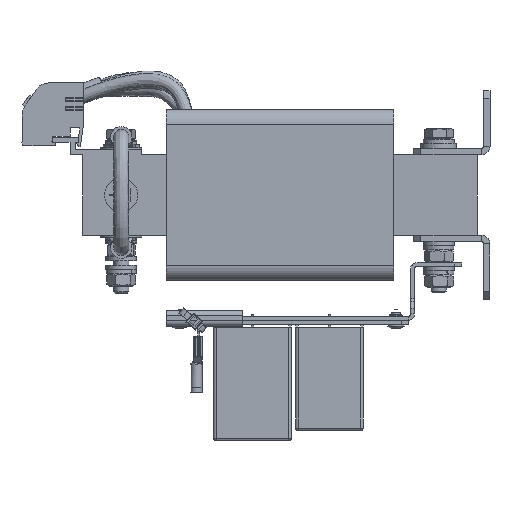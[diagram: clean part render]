
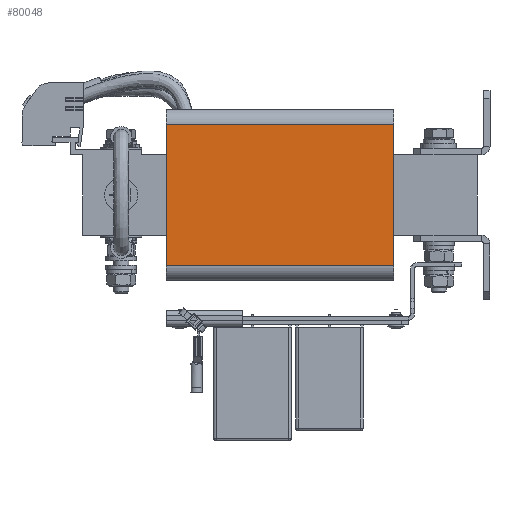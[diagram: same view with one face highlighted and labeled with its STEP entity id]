
A CAD part, left-side view. The second image highlights one B-rep face of the part: STEP entity #80048.
In plain terms, the highlighted planar face has unit normal (-1, 0, 0).
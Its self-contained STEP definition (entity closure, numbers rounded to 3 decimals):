
#3703=PLANE('',#86749);
#8261=FACE_OUTER_BOUND('',#12871,.T.);
#12871=EDGE_LOOP('',(#69904,#69905,#69906,#69907));
#17547=LINE('',#114474,#25160);
#17557=LINE('',#114507,#25170);
#23246=LINE('',#135999,#30859);
#23247=LINE('',#136001,#30860);
#25160=VECTOR('',#90908,10.);
#25170=VECTOR('',#90932,10.);
#30859=VECTOR('',#106291,10.);
#30860=VECTOR('',#106294,10.);
#32901=VERTEX_POINT('',#114471);
#32902=VERTEX_POINT('',#114473);
#32917=VERTEX_POINT('',#114504);
#32918=VERTEX_POINT('',#114506);
#40810=EDGE_CURVE('',#32901,#32902,#17547,.T.);
#40826=EDGE_CURVE('',#32917,#32918,#17557,.T.);
#48984=EDGE_CURVE('',#32918,#32901,#23246,.T.);
#48985=EDGE_CURVE('',#32917,#32902,#23247,.T.);
#69904=ORIENTED_EDGE('',*,*,#48984,.F.);
#69905=ORIENTED_EDGE('',*,*,#40826,.F.);
#69906=ORIENTED_EDGE('',*,*,#48985,.T.);
#69907=ORIENTED_EDGE('',*,*,#40810,.F.);
#80048=ADVANCED_FACE('',(#8261),#3703,.T.);
#86749=AXIS2_PLACEMENT_3D('',#136000,#106292,#106293);
#90908=DIRECTION('',(0.,0.,-1.));
#90932=DIRECTION('',(0.,0.,1.));
#106291=DIRECTION('',(0.,-1.,0.));
#106292=DIRECTION('center_axis',(-1.,0.,0.));
#106293=DIRECTION('ref_axis',(0.,0.,1.));
#106294=DIRECTION('',(0.,-1.,0.));
#114471=CARTESIAN_POINT('',(-89.,-44.5,27.6));
#114473=CARTESIAN_POINT('',(-89.,-44.5,-27.6));
#114474=CARTESIAN_POINT('',(-89.,-44.5,27.6));
#114504=CARTESIAN_POINT('',(-89.,44.5,-27.6));
#114506=CARTESIAN_POINT('',(-89.,44.5,27.6));
#114507=CARTESIAN_POINT('',(-89.,44.5,27.6));
#135999=CARTESIAN_POINT('',(-89.,0.,27.6));
#136000=CARTESIAN_POINT('Origin',(-89.,0.,-27.6));
#136001=CARTESIAN_POINT('',(-89.,0.,-27.6));
